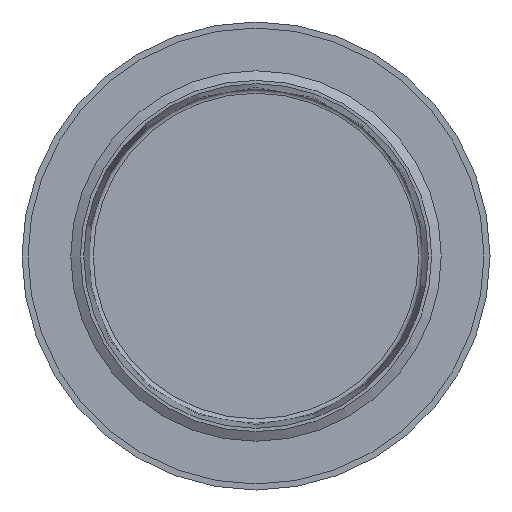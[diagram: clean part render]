
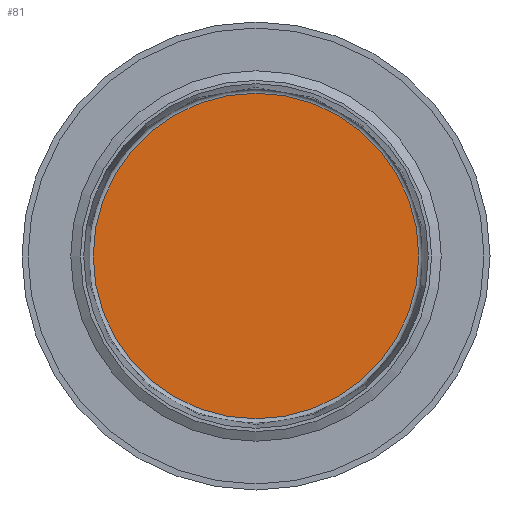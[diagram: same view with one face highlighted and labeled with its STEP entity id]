
A CAD part, front view. The second image highlights one B-rep face of the part: STEP entity #81.
In plain terms, the highlighted planar face has unit normal (0, -1, 0).
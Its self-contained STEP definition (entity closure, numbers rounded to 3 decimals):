
#81 = ADVANCED_FACE( '', ( #112 ), #113, .T. );
#112 = FACE_OUTER_BOUND( '', #164, .T. );
#113 = PLANE( '', #165 );
#164 = EDGE_LOOP( '', ( #236 ) );
#165 = AXIS2_PLACEMENT_3D( '', #237, #238, #239 );
#236 = ORIENTED_EDGE( '', *, *, #334, .T. );
#237 = CARTESIAN_POINT( '', ( 0., 13.5, 0. ) );
#238 = DIRECTION( '', ( 0., -1., 0. ) );
#239 = DIRECTION( '', ( 0., 0., -1. ) );
#334 = EDGE_CURVE( '', #377, #377, #378, .T. );
#377 = VERTEX_POINT( '', #440 );
#378 = CIRCLE( '', #441, 14.607 );
#440 = CARTESIAN_POINT( '', ( 0., 13.5, -14.607 ) );
#441 = AXIS2_PLACEMENT_3D( '', #500, #501, #502 );
#500 = CARTESIAN_POINT( '', ( 0., 13.5, 0. ) );
#501 = DIRECTION( '', ( 0., -1., 0. ) );
#502 = DIRECTION( '', ( 0., 0., -1. ) );
